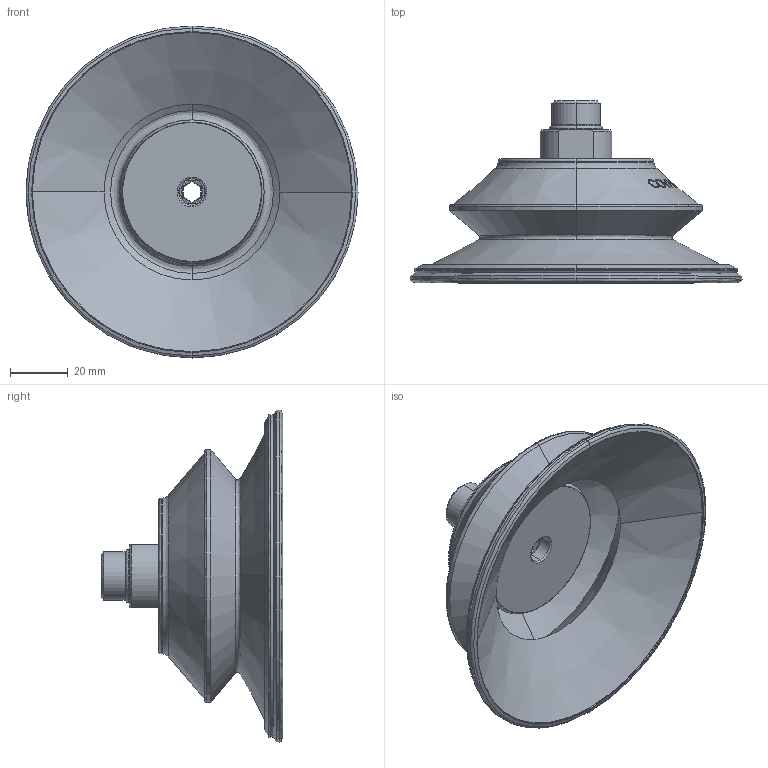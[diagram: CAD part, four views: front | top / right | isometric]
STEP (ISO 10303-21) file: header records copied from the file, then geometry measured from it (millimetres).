
FILE_DESCRIPTION (( 'STEP AP214' ), '1' );
FILE_NAME ('SAB-100-G3-8AG.STEP', '2023-03-07T01:16:38', ( 'Windows User' ), ( 'P R C' ), 'SwSTEP 2.0', 'SolidWorks 2019', '' );
FILE_SCHEMA (( 'AUTOMOTIVE_DESIGN' ));
Length unit declared in the file: millimetre
Products named in the file (1): SAB-100-G3-8AG
Bounding box: 115 x 63 x 115 mm (x, y, z)
Volume: 81175.7 mm3; surface area: 44654 mm2
Topology: 3 solids, 3 shells, 175 faces, 407 edges, 252 vertices
Faces by surface type: bspline 77, cone 41, cylinder 30, plane 27
Entity records: 18679 total; most frequent: CARTESIAN_POINT 13045, ORIENTED_EDGE 814, DIRECTION 661, EDGE_CURVE 407, AXIS2_PLACEMENT_3D 257, VERTEX_POINT 252, EDGE_LOOP 195, UNCERTAINTY_MEASURE_WITH_UNIT 180
